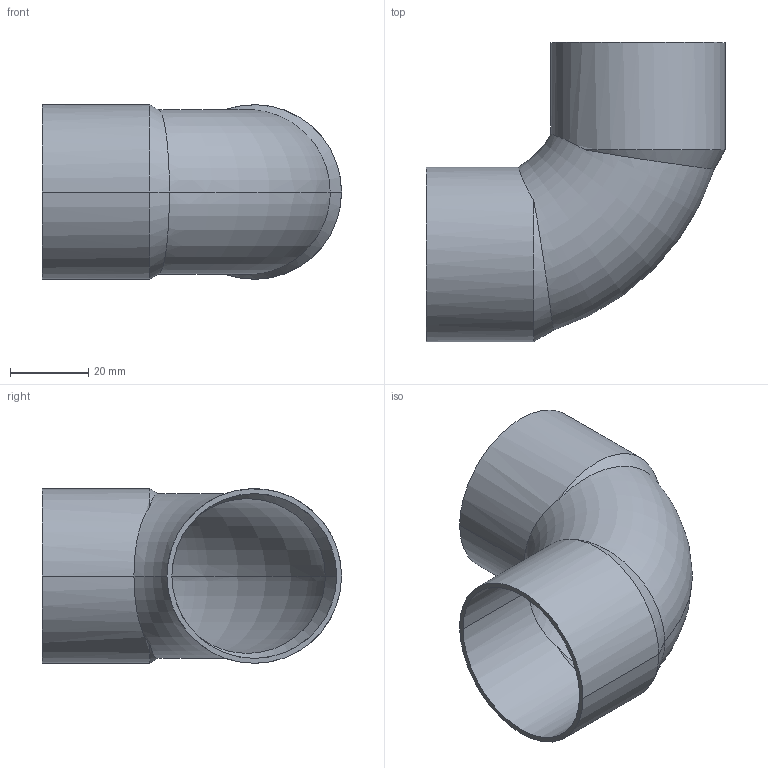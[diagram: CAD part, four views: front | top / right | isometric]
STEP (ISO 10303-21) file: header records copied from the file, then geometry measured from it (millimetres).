
FILE_DESCRIPTION((''),'2;1');
FILE_NAME('G:\SANHA-TERNAT\Technik\Deckel\UUU\Producttek\1509042\1509042(0).stp','2007-07-24T09:54:24',('vdvijverd'),(''),'Autodesk Inventor 8','Autodesk Inventor 8','');
FILE_SCHEMA(('AUTOMOTIVE_DESIGN { 1 0 10303 214 1 1 1 1 }'));
Length unit declared in the file: millimetre
Products named in the file (1): 1509052(1)
Bounding box: 76.25 x 76.25 x 44.5 mm (x, y, z)
Volume: 15592.1 mm3; surface area: 24940.2 mm2
Topology: 1 solids, 1 shells, 22 faces, 53 edges, 33 vertices
Faces by surface type: bspline 9, torus 4, cone 4, cylinder 4, plane 1
Entity records: 929 total; most frequent: CARTESIAN_POINT 444, ORIENTED_EDGE 106, DIRECTION 82, EDGE_CURVE 53, AXIS2_PLACEMENT_3D 35, VERTEX_POINT 33, EDGE_LOOP 24, FACE_OUTER_BOUND 22
